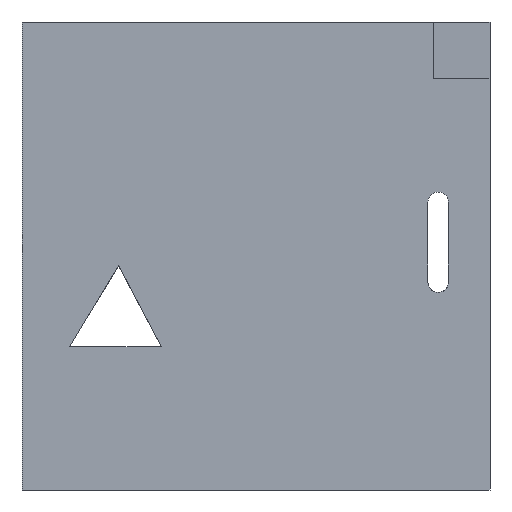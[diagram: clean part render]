
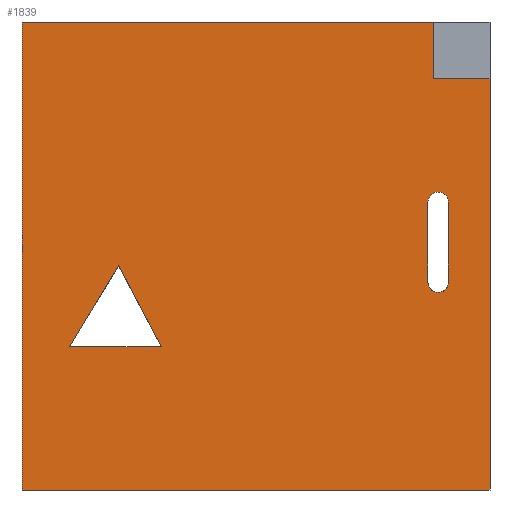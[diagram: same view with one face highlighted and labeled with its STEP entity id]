
A CAD part, front view. The second image highlights one B-rep face of the part: STEP entity #1839.
In plain terms, the highlighted planar face has unit normal (0, -1, 0).
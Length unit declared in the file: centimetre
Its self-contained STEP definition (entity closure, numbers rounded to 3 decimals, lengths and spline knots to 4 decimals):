
#9 = CARTESIAN_POINT ( 'NONE',  ( 889.2406, 0., 614.6235 ) ) ;
#144 = EDGE_CURVE ( 'NONE', #1446, #1618, #1948, .T. ) ;
#159 = CARTESIAN_POINT ( 'NONE',  ( 101.7563, 0., 305.7525 ) ) ;
#166 = EDGE_CURVE ( 'NONE', #872, #328, #1334, .T. ) ;
#176 = DIRECTION ( 'NONE',  ( 0., 0., 1. ) ) ;
#201 = VERTEX_POINT ( 'NONE', #1643 ) ;
#208 = DIRECTION ( 'NONE',  ( 0., 1., 0. ) ) ;
#220 = EDGE_CURVE ( 'NONE', #1992, #1159, #354, .T. ) ;
#257 = CARTESIAN_POINT ( 'NONE',  ( 889.2406, 0., 636.6362 ) ) ;
#260 = ORIENTED_EDGE ( 'NONE', *, *, #909, .T. ) ;
#263 = CARTESIAN_POINT ( 'NONE',  ( 880.0703, 0., 878.7743 ) ) ;
#268 = VERTEX_POINT ( 'NONE', #1049 ) ;
#276 = CARTESIAN_POINT ( 'NONE',  ( 911.2533, 0., 444.0587 ) ) ;
#309 = VERTEX_POINT ( 'NONE', #899 ) ;
#328 = VERTEX_POINT ( 'NONE', #1229 ) ;
#341 = LINE ( 'NONE', #1601, #1559 ) ;
#354 = CIRCLE ( 'NONE', #1599, 22.0127 ) ;
#356 = AXIS2_PLACEMENT_3D ( 'NONE', #9, #2025, #176 ) ;
#383 = ORIENTED_EDGE ( 'NONE', *, *, #220, .T. ) ;
#384 = CARTESIAN_POINT ( 'NONE',  ( 911.2533, 0., 614.6235 ) ) ;
#387 = CARTESIAN_POINT ( 'NONE',  ( 911.2533, 0., 614.6235 ) ) ;
#388 = ORIENTED_EDGE ( 'NONE', *, *, #1699, .T. ) ;
#390 = PLANE ( 'NONE',  #710 ) ;
#415 = ORIENTED_EDGE ( 'NONE', *, *, #420, .T. ) ;
#420 = EDGE_CURVE ( 'NONE', #998, #268, #1418, .T. ) ;
#433 = LINE ( 'NONE', #916, #1472 ) ;
#445 = EDGE_CURVE ( 'NONE', #1618, #1992, #651, .T. ) ;
#460 = DIRECTION ( 'NONE',  ( 0., 0., 1. ) ) ;
#467 = LINE ( 'NONE', #620, #1796 ) ;
#479 = ORIENTED_EDGE ( 'NONE', *, *, #1593, .T. ) ;
#497 = LINE ( 'NONE', #1411, #1633 ) ;
#500 = FACE_OUTER_BOUND ( 'NONE', #689, .T. ) ;
#510 = CARTESIAN_POINT ( 'NONE',  ( 0., 0., 1000. ) ) ;
#545 = CARTESIAN_POINT ( 'NONE',  ( 867.2279, 0., 614.6235 ) ) ;
#549 = DIRECTION ( 'NONE',  ( 0., 0., -1. ) ) ;
#612 = CIRCLE ( 'NONE', #1622, 22.0127 ) ;
#620 = CARTESIAN_POINT ( 'NONE',  ( 297.5005, 0., 305.7525 ) ) ;
#638 = DIRECTION ( 'NONE',  ( 0.464, 0., -0.886 ) ) ;
#651 = CIRCLE ( 'NONE', #356, 22.0127 ) ;
#659 = EDGE_CURVE ( 'NONE', #268, #1187, #467, .T. ) ;
#672 = CARTESIAN_POINT ( 'NONE',  ( 0., 0., 1000. ) ) ;
#680 = DIRECTION ( 'NONE',  ( 1., 0., 0. ) ) ;
#689 = EDGE_LOOP ( 'NONE', ( #1357, #260, #1954, #1467, #388, #1737 ) ) ;
#697 = VERTEX_POINT ( 'NONE', #1732 ) ;
#710 = AXIS2_PLACEMENT_3D ( 'NONE', #510, #1431, #994 ) ;
#872 = VERTEX_POINT ( 'NONE', #1380 ) ;
#899 = CARTESIAN_POINT ( 'NONE',  ( 1000., 0., 0. ) ) ;
#909 = EDGE_CURVE ( 'NONE', #1528, #328, #433, .T. ) ;
#916 = CARTESIAN_POINT ( 'NONE',  ( 880.0703, 0., 878.7743 ) ) ;
#939 = VECTOR ( 'NONE', #963, 100. ) ;
#949 = CARTESIAN_POINT ( 'NONE',  ( 206.5194, 0., 479.2505 ) ) ;
#963 = DIRECTION ( 'NONE',  ( 0., 0., 1. ) ) ;
#975 = DIRECTION ( 'NONE',  ( 0., 0., 1. ) ) ;
#990 = DIRECTION ( 'NONE',  ( 0., 0., -1. ) ) ;
#994 = DIRECTION ( 'NONE',  ( 0., 0., 1. ) ) ;
#998 = VERTEX_POINT ( 'NONE', #159 ) ;
#1016 = EDGE_CURVE ( 'NONE', #697, #309, #497, .T. ) ;
#1023 = DIRECTION ( 'NONE',  ( 1., 0., 0. ) ) ;
#1049 = CARTESIAN_POINT ( 'NONE',  ( 206.5194, 0., 479.2505 ) ) ;
#1058 = EDGE_LOOP ( 'NONE', ( #479, #1457, #1971, #2012, #383 ) ) ;
#1108 = CARTESIAN_POINT ( 'NONE',  ( 867.2279, 0., 444.0587 ) ) ;
#1112 = CARTESIAN_POINT ( 'NONE',  ( 889.2406, 0., 444.0587 ) ) ;
#1123 = CARTESIAN_POINT ( 'NONE',  ( 867.2279, 0., 444.0587 ) ) ;
#1126 = EDGE_CURVE ( 'NONE', #872, #201, #1931, .T. ) ;
#1159 = VERTEX_POINT ( 'NONE', #387 ) ;
#1167 = VECTOR ( 'NONE', #1023, 100. ) ;
#1169 = CARTESIAN_POINT ( 'NONE',  ( 889.2406, 0., 614.6235 ) ) ;
#1187 = VERTEX_POINT ( 'NONE', #1787 ) ;
#1229 = CARTESIAN_POINT ( 'NONE',  ( 880.0703, 0., 1000. ) ) ;
#1240 = VECTOR ( 'NONE', #549, 100. ) ;
#1262 = VERTEX_POINT ( 'NONE', #276 ) ;
#1297 = FACE_BOUND ( 'NONE', #1940, .T. ) ;
#1334 = LINE ( 'NONE', #1430, #1167 ) ;
#1344 = EDGE_CURVE ( 'NONE', #1528, #697, #341, .T. ) ;
#1353 = LINE ( 'NONE', #1489, #1980 ) ;
#1357 = ORIENTED_EDGE ( 'NONE', *, *, #1344, .F. ) ;
#1376 = EDGE_CURVE ( 'NONE', #1262, #1446, #612, .T. ) ;
#1380 = CARTESIAN_POINT ( 'NONE',  ( 0., 0., 1000. ) ) ;
#1411 = CARTESIAN_POINT ( 'NONE',  ( 1000., 0., 1000. ) ) ;
#1418 = LINE ( 'NONE', #949, #1566 ) ;
#1430 = CARTESIAN_POINT ( 'NONE',  ( 0., 0., 1000. ) ) ;
#1431 = DIRECTION ( 'NONE',  ( 0., 1., 0. ) ) ;
#1446 = VERTEX_POINT ( 'NONE', #1123 ) ;
#1456 = ORIENTED_EDGE ( 'NONE', *, *, #1580, .T. ) ;
#1457 = ORIENTED_EDGE ( 'NONE', *, *, #1376, .T. ) ;
#1466 = CARTESIAN_POINT ( 'NONE',  ( 0., 0., 0. ) ) ;
#1467 = ORIENTED_EDGE ( 'NONE', *, *, #1126, .T. ) ;
#1472 = VECTOR ( 'NONE', #1680, 100. ) ;
#1477 = LINE ( 'NONE', #1466, #1947 ) ;
#1489 = CARTESIAN_POINT ( 'NONE',  ( 101.7563, 0., 305.7525 ) ) ;
#1490 = DIRECTION ( 'NONE',  ( 0., 1., 0. ) ) ;
#1528 = VERTEX_POINT ( 'NONE', #263 ) ;
#1554 = DIRECTION ( 'NONE',  ( 0., 0., -1. ) ) ;
#1559 = VECTOR ( 'NONE', #680, 100. ) ;
#1566 = VECTOR ( 'NONE', #1877, 100. ) ;
#1580 = EDGE_CURVE ( 'NONE', #1187, #998, #1353, .T. ) ;
#1593 = EDGE_CURVE ( 'NONE', #1159, #1262, #1652, .T. ) ;
#1599 = AXIS2_PLACEMENT_3D ( 'NONE', #1169, #1490, #975 ) ;
#1601 = CARTESIAN_POINT ( 'NONE',  ( 880.0703, 0., 878.7743 ) ) ;
#1614 = ORIENTED_EDGE ( 'NONE', *, *, #659, .T. ) ;
#1618 = VERTEX_POINT ( 'NONE', #545 ) ;
#1622 = AXIS2_PLACEMENT_3D ( 'NONE', #1112, #208, #460 ) ;
#1627 = DIRECTION ( 'NONE',  ( 1., 0., 0. ) ) ;
#1633 = VECTOR ( 'NONE', #1554, 100. ) ;
#1643 = CARTESIAN_POINT ( 'NONE',  ( 0., 0., 0. ) ) ;
#1652 = LINE ( 'NONE', #384, #1786 ) ;
#1680 = DIRECTION ( 'NONE',  ( 0., 0., 1. ) ) ;
#1699 = EDGE_CURVE ( 'NONE', #201, #309, #1477, .T. ) ;
#1732 = CARTESIAN_POINT ( 'NONE',  ( 1000., 0., 878.7743 ) ) ;
#1737 = ORIENTED_EDGE ( 'NONE', *, *, #1016, .F. ) ;
#1786 = VECTOR ( 'NONE', #990, 100. ) ;
#1787 = CARTESIAN_POINT ( 'NONE',  ( 297.5005, 0., 305.7525 ) ) ;
#1796 = VECTOR ( 'NONE', #638, 100. ) ;
#1839 = ADVANCED_FACE ( 'NONE', ( #1297, #1913, #500 ), #390, .F. ) ;
#1877 = DIRECTION ( 'NONE',  ( 0.517, 0., 0.856 ) ) ;
#1913 = FACE_BOUND ( 'NONE', #1058, .T. ) ;
#1931 = LINE ( 'NONE', #672, #1240 ) ;
#1940 = EDGE_LOOP ( 'NONE', ( #1614, #1456, #415 ) ) ;
#1947 = VECTOR ( 'NONE', #1627, 100. ) ;
#1948 = LINE ( 'NONE', #1108, #939 ) ;
#1954 = ORIENTED_EDGE ( 'NONE', *, *, #166, .F. ) ;
#1971 = ORIENTED_EDGE ( 'NONE', *, *, #144, .T. ) ;
#1976 = DIRECTION ( 'NONE',  ( -1., 0., 0. ) ) ;
#1980 = VECTOR ( 'NONE', #1976, 100. ) ;
#1992 = VERTEX_POINT ( 'NONE', #257 ) ;
#2012 = ORIENTED_EDGE ( 'NONE', *, *, #445, .T. ) ;
#2025 = DIRECTION ( 'NONE',  ( 0., 1., 0. ) ) ;
